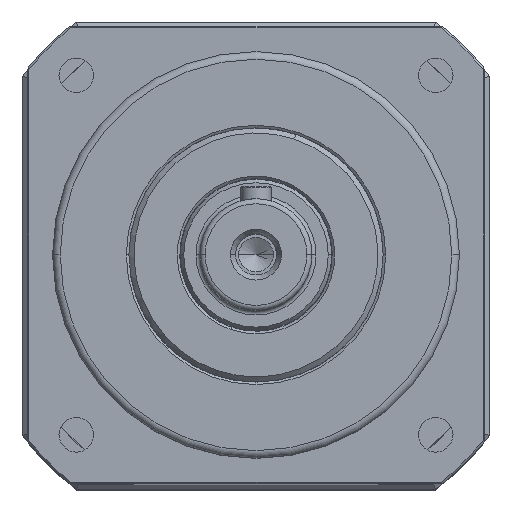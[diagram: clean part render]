
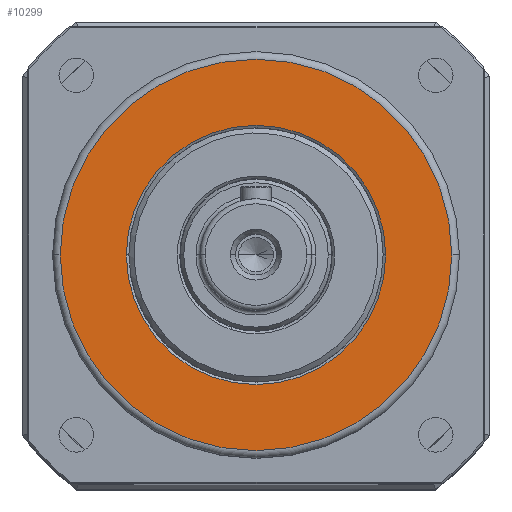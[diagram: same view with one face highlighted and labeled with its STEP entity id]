
A CAD part, top view. The second image highlights one B-rep face of the part: STEP entity #10299.
In plain terms, the highlighted planar face has unit normal (0, 0, 1).
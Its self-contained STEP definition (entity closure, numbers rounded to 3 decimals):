
#369 = CARTESIAN_POINT ( 'NONE',  ( -38.5, 0., 10. ) ) ;
#476 = DIRECTION ( 'NONE',  ( 0., 0., 1. ) ) ;
#1340 = CARTESIAN_POINT ( 'NONE',  ( 0., 0., 10. ) ) ;
#1681 = VERTEX_POINT ( 'NONE', #8314 ) ;
#1764 = DIRECTION ( 'NONE',  ( 0., 0., 1. ) ) ;
#2033 = EDGE_LOOP ( 'NONE', ( #12191, #13485 ) ) ;
#2037 = FACE_OUTER_BOUND ( 'NONE', #2033, .T. ) ;
#2375 = AXIS2_PLACEMENT_3D ( 'NONE', #16340, #2723, #15952 ) ;
#2605 = CIRCLE ( 'NONE', #11017, 38.5 ) ;
#2723 = DIRECTION ( 'NONE',  ( 0., 0., -1. ) ) ;
#3056 = CARTESIAN_POINT ( 'NONE',  ( 0., 0., 10. ) ) ;
#4703 = ORIENTED_EDGE ( 'NONE', *, *, #12167, .T. ) ;
#4730 = CARTESIAN_POINT ( 'NONE',  ( 0., 0., 10. ) ) ;
#6116 = EDGE_CURVE ( 'NONE', #9743, #14174, #15309, .T. ) ;
#6881 = FACE_BOUND ( 'NONE', #10110, .T. ) ;
#7368 = DIRECTION ( 'NONE',  ( 0., 0., -1. ) ) ;
#8314 = CARTESIAN_POINT ( 'NONE',  ( 25.5, 0., 10. ) ) ;
#8361 = EDGE_CURVE ( 'NONE', #14174, #9743, #2605, .T. ) ;
#8528 = PLANE ( 'NONE',  #14521 ) ;
#8632 = DIRECTION ( 'NONE',  ( 1., 0., 0. ) ) ;
#8739 = CIRCLE ( 'NONE', #9345, 25.5 ) ;
#9345 = AXIS2_PLACEMENT_3D ( 'NONE', #16321, #7368, #8632 ) ;
#9446 = DIRECTION ( 'NONE',  ( 1., 0., 0. ) ) ;
#9743 = VERTEX_POINT ( 'NONE', #12387 ) ;
#10110 = EDGE_LOOP ( 'NONE', ( #15875, #4703 ) ) ;
#10299 = ADVANCED_FACE ( 'NONE', ( #6881, #2037 ), #8528, .T. ) ;
#11017 = AXIS2_PLACEMENT_3D ( 'NONE', #4730, #13696, #13641 ) ;
#11170 = DIRECTION ( 'NONE',  ( 1., 0., 0. ) ) ;
#11921 = EDGE_CURVE ( 'NONE', #1681, #12695, #13503, .T. ) ;
#12167 = EDGE_CURVE ( 'NONE', #12695, #1681, #8739, .T. ) ;
#12191 = ORIENTED_EDGE ( 'NONE', *, *, #6116, .T. ) ;
#12387 = CARTESIAN_POINT ( 'NONE',  ( 38.5, 0., 10. ) ) ;
#12433 = AXIS2_PLACEMENT_3D ( 'NONE', #3056, #1764, #9446 ) ;
#12695 = VERTEX_POINT ( 'NONE', #15887 ) ;
#13485 = ORIENTED_EDGE ( 'NONE', *, *, #8361, .T. ) ;
#13503 = CIRCLE ( 'NONE', #2375, 25.5 ) ;
#13641 = DIRECTION ( 'NONE',  ( 1., 0., 0. ) ) ;
#13696 = DIRECTION ( 'NONE',  ( 0., 0., 1. ) ) ;
#14174 = VERTEX_POINT ( 'NONE', #369 ) ;
#14521 = AXIS2_PLACEMENT_3D ( 'NONE', #1340, #476, #11170 ) ;
#15309 = CIRCLE ( 'NONE', #12433, 38.5 ) ;
#15875 = ORIENTED_EDGE ( 'NONE', *, *, #11921, .T. ) ;
#15887 = CARTESIAN_POINT ( 'NONE',  ( -25.5, 0., 10. ) ) ;
#15952 = DIRECTION ( 'NONE',  ( 1., 0., 0. ) ) ;
#16321 = CARTESIAN_POINT ( 'NONE',  ( 0., 0., 10. ) ) ;
#16340 = CARTESIAN_POINT ( 'NONE',  ( 0., 0., 10. ) ) ;
